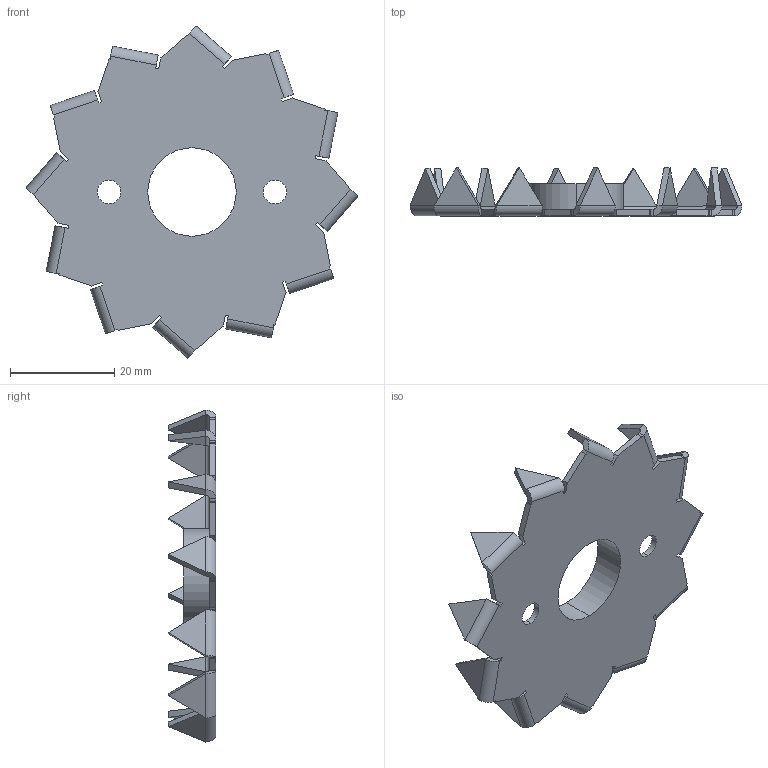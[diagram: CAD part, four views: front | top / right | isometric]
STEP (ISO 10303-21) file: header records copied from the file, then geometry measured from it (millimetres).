
FILE_DESCRIPTION (( 'STEP AP203' ), '1' );
FILE_NAME ('E62.STEP', '2020-05-22T10:01:28', ( '' ), ( '' ), 'SwSTEP 2.0', 'SolidWorks 2013', '' );
FILE_SCHEMA (( 'CONFIG_CONTROL_DESIGN' ));
Length unit declared in the file: millimetre
Products named in the file (1): E62
Bounding box: 63.81 x 9.2 x 63.81 mm (x, y, z)
Volume: 3485.7 mm3; surface area: 6644.1 mm2
Topology: 1 solids, 1 shells, 179 faces, 432 edges, 256 vertices
Faces by surface type: plane 147, cylinder 32
Entity records: 5131 total; most frequent: CARTESIAN_POINT 868, ORIENTED_EDGE 864, DIRECTION 856, EDGE_CURVE 432, LINE 368, VECTOR 368, VERTEX_POINT 256, AXIS2_PLACEMENT_3D 244
